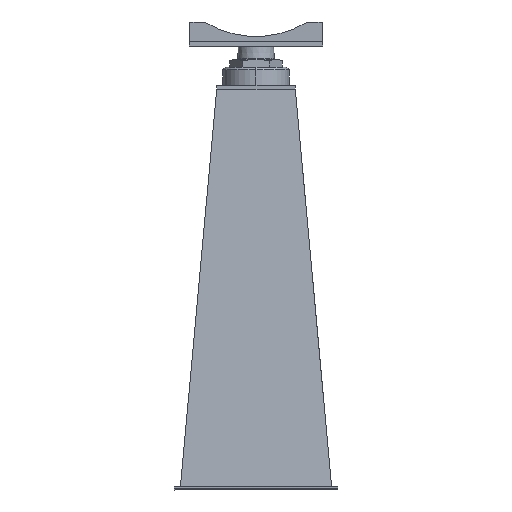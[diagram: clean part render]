
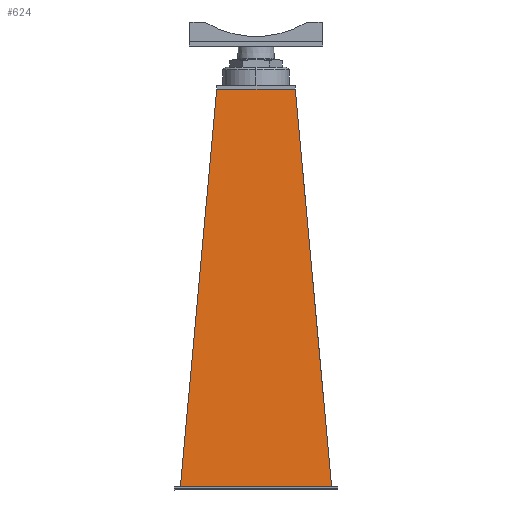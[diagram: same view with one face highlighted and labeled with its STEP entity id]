
A CAD part, left-side view. The second image highlights one B-rep face of the part: STEP entity #624.
In plain terms, the highlighted planar face has unit normal (-0.996, 0, 0.091).
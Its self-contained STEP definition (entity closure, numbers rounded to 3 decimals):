
#624=ADVANCED_FACE('',(#1294),#1295,.T.);
#1294=FACE_OUTER_BOUND('',#2051,.T.);
#1295=PLANE('',#2052);
#2051=EDGE_LOOP('',(#3966,#3967,#3968,#3969));
#2052=AXIS2_PLACEMENT_3D('',#3970,#3971,#3972);
#3966=ORIENTED_EDGE('',*,*,#5045,.T.);
#3967=ORIENTED_EDGE('',*,*,#4793,.F.);
#3968=ORIENTED_EDGE('',*,*,#5033,.T.);
#3969=ORIENTED_EDGE('',*,*,#5060,.T.);
#3970=CARTESIAN_POINT('',(415.54,641.752,207.298));
#3971=DIRECTION('',(-0.996,0.,0.091));
#3972=DIRECTION('',(0.,1.0,0.));
#4793=EDGE_CURVE('',#5774,#5769,#5776,.F.);
#5033=EDGE_CURVE('',#5774,#6088,#6090,.F.);
#5045=EDGE_CURVE('',#6109,#5769,#6112,.T.);
#5060=EDGE_CURVE('',#6088,#6109,#6131,.F.);
#5769=VERTEX_POINT('',#7369);
#5774=VERTEX_POINT('',#7376);
#5776=LINE('',#7379,#7380);
#6088=VERTEX_POINT('',#7948);
#6090=LINE('',#7951,#7952);
#6109=VERTEX_POINT('',#7979);
#6112=LINE('',#7984,#7985);
#6131=LINE('',#8012,#8013);
#7369=CARTESIAN_POINT('',(355.515,454.739,-449.975));
#7376=CARTESIAN_POINT('',(415.515,514.739,207.025));
#7379=CARTESIAN_POINT('',(416.073,515.297,213.135));
#7380=VECTOR('',#8733,1.);
#7948=CARTESIAN_POINT('',(415.515,644.764,207.025));
#7951=CARTESIAN_POINT('',(415.515,610.752,207.025));
#7952=VECTOR('',#8903,1.);
#7979=CARTESIAN_POINT('',(355.515,704.764,-449.975));
#7984=CARTESIAN_POINT('',(355.515,610.752,-449.975));
#7985=VECTOR('',#8914,1.);
#8012=CARTESIAN_POINT('',(416.073,644.206,213.135));
#8013=VECTOR('',#8923,1.);
#8733=DIRECTION('',(0.091,0.091,0.992));
#8903=DIRECTION('',(0.,-1.0,0.));
#8914=DIRECTION('',(0.,-1.0,0.));
#8923=DIRECTION('',(0.091,-0.091,0.992));
